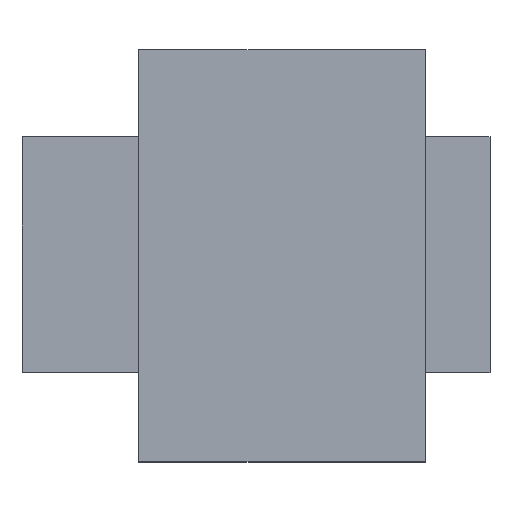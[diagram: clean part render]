
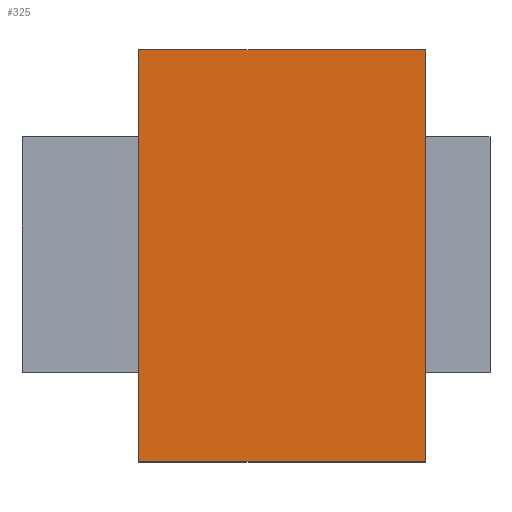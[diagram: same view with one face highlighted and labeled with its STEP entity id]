
A CAD part, top view. The second image highlights one B-rep face of the part: STEP entity #325.
In plain terms, the highlighted planar face has unit normal (0, 0, 1).
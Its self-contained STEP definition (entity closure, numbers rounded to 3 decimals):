
#24 = VERTEX_POINT('',#25);
#25 = CARTESIAN_POINT('',(0.,0.,12.7)
  );
#32 = PLANE('',#33);
#33 = AXIS2_PLACEMENT_3D('',#34,#35,#36);
#34 = CARTESIAN_POINT('',(0.,0.,0.));
#35 = DIRECTION('',(-1.,0.,0.));
#36 = DIRECTION('',(0.,0.,1.));
#44 = PLANE('',#45);
#45 = AXIS2_PLACEMENT_3D('',#46,#47,#48);
#46 = CARTESIAN_POINT('',(9.5,0.,6.35));
#47 = DIRECTION('',(0.,1.,0.));
#48 = DIRECTION('',(0.,0.,1.));
#197 = VERTEX_POINT('',#198);
#198 = CARTESIAN_POINT('',(0.,-27.3,12.7));
#212 = PLANE('',#213);
#213 = AXIS2_PLACEMENT_3D('',#214,#215,#216);
#214 = CARTESIAN_POINT('',(9.5,-27.3,6.35));
#215 = DIRECTION('',(0.,1.,0.));
#216 = DIRECTION('',(0.,0.,1.));
#224 = EDGE_CURVE('',#24,#197,#225,.T.);
#225 = SURFACE_CURVE('',#226,(#230,#237),.PCURVE_S1.);
#226 = LINE('',#227,#228);
#227 = CARTESIAN_POINT('',(0.,0.,12.7)
  );
#228 = VECTOR('',#229,1.);
#229 = DIRECTION('',(0.,-1.,0.));
#230 = PCURVE('',#32,#231);
#231 = DEFINITIONAL_REPRESENTATION('',(#232),#236);
#232 = LINE('',#233,#234);
#233 = CARTESIAN_POINT('',(12.7,0.));
#234 = VECTOR('',#235,1.);
#235 = DIRECTION('',(0.,-1.));
#236 = ( GEOMETRIC_REPRESENTATION_CONTEXT(2) 
PARAMETRIC_REPRESENTATION_CONTEXT() REPRESENTATION_CONTEXT('2D SPACE',''
  ) );
#237 = PCURVE('',#238,#243);
#238 = PLANE('',#239);
#239 = AXIS2_PLACEMENT_3D('',#240,#241,#242);
#240 = CARTESIAN_POINT('',(0.,0.,12.7)
  );
#241 = DIRECTION('',(0.,0.,1.));
#242 = DIRECTION('',(1.,0.,0.));
#243 = DEFINITIONAL_REPRESENTATION('',(#244),#248);
#244 = LINE('',#245,#246);
#245 = CARTESIAN_POINT('',(0.,0.));
#246 = VECTOR('',#247,1.);
#247 = DIRECTION('',(0.,-1.));
#248 = ( GEOMETRIC_REPRESENTATION_CONTEXT(2) 
PARAMETRIC_REPRESENTATION_CONTEXT() REPRESENTATION_CONTEXT('2D SPACE',''
  ) );
#254 = EDGE_CURVE('',#24,#255,#257,.T.);
#255 = VERTEX_POINT('',#256);
#256 = CARTESIAN_POINT('',(19.,0.,12.7));
#257 = SURFACE_CURVE('',#258,(#262,#269),.PCURVE_S1.);
#258 = LINE('',#259,#260);
#259 = CARTESIAN_POINT('',(0.,0.,12.7)
  );
#260 = VECTOR('',#261,1.);
#261 = DIRECTION('',(1.,0.,0.));
#262 = PCURVE('',#44,#263);
#263 = DEFINITIONAL_REPRESENTATION('',(#264),#268);
#264 = LINE('',#265,#266);
#265 = CARTESIAN_POINT('',(6.35,-9.5));
#266 = VECTOR('',#267,1.);
#267 = DIRECTION('',(0.,1.));
#268 = ( GEOMETRIC_REPRESENTATION_CONTEXT(2) 
PARAMETRIC_REPRESENTATION_CONTEXT() REPRESENTATION_CONTEXT('2D SPACE',''
  ) );
#269 = PCURVE('',#238,#270);
#270 = DEFINITIONAL_REPRESENTATION('',(#271),#275);
#271 = LINE('',#272,#273);
#272 = CARTESIAN_POINT('',(0.,0.));
#273 = VECTOR('',#274,1.);
#274 = DIRECTION('',(1.,0.));
#275 = ( GEOMETRIC_REPRESENTATION_CONTEXT(2) 
PARAMETRIC_REPRESENTATION_CONTEXT() REPRESENTATION_CONTEXT('2D SPACE',''
  ) );
#293 = PLANE('',#294);
#294 = AXIS2_PLACEMENT_3D('',#295,#296,#297);
#295 = CARTESIAN_POINT('',(19.,0.,12.7));
#296 = DIRECTION('',(1.,0.,0.));
#297 = DIRECTION('',(0.,0.,-1.));
#325 = ADVANCED_FACE('',(#326),#238,.T.);
#326 = FACE_BOUND('',#327,.T.);
#327 = EDGE_LOOP('',(#328,#329,#352,#373));
#328 = ORIENTED_EDGE('',*,*,#224,.T.);
#329 = ORIENTED_EDGE('',*,*,#330,.T.);
#330 = EDGE_CURVE('',#197,#331,#333,.T.);
#331 = VERTEX_POINT('',#332);
#332 = CARTESIAN_POINT('',(19.,-27.3,12.7));
#333 = SURFACE_CURVE('',#334,(#338,#345),.PCURVE_S1.);
#334 = LINE('',#335,#336);
#335 = CARTESIAN_POINT('',(0.,-27.3,12.7));
#336 = VECTOR('',#337,1.);
#337 = DIRECTION('',(1.,0.,0.));
#338 = PCURVE('',#238,#339);
#339 = DEFINITIONAL_REPRESENTATION('',(#340),#344);
#340 = LINE('',#341,#342);
#341 = CARTESIAN_POINT('',(0.,-27.3));
#342 = VECTOR('',#343,1.);
#343 = DIRECTION('',(1.,0.));
#344 = ( GEOMETRIC_REPRESENTATION_CONTEXT(2) 
PARAMETRIC_REPRESENTATION_CONTEXT() REPRESENTATION_CONTEXT('2D SPACE',''
  ) );
#345 = PCURVE('',#212,#346);
#346 = DEFINITIONAL_REPRESENTATION('',(#347),#351);
#347 = LINE('',#348,#349);
#348 = CARTESIAN_POINT('',(6.35,-9.5));
#349 = VECTOR('',#350,1.);
#350 = DIRECTION('',(0.,1.));
#351 = ( GEOMETRIC_REPRESENTATION_CONTEXT(2) 
PARAMETRIC_REPRESENTATION_CONTEXT() REPRESENTATION_CONTEXT('2D SPACE',''
  ) );
#352 = ORIENTED_EDGE('',*,*,#353,.F.);
#353 = EDGE_CURVE('',#255,#331,#354,.T.);
#354 = SURFACE_CURVE('',#355,(#359,#366),.PCURVE_S1.);
#355 = LINE('',#356,#357);
#356 = CARTESIAN_POINT('',(19.,0.,12.7));
#357 = VECTOR('',#358,1.);
#358 = DIRECTION('',(0.,-1.,0.));
#359 = PCURVE('',#238,#360);
#360 = DEFINITIONAL_REPRESENTATION('',(#361),#365);
#361 = LINE('',#362,#363);
#362 = CARTESIAN_POINT('',(19.,0.));
#363 = VECTOR('',#364,1.);
#364 = DIRECTION('',(0.,-1.));
#365 = ( GEOMETRIC_REPRESENTATION_CONTEXT(2) 
PARAMETRIC_REPRESENTATION_CONTEXT() REPRESENTATION_CONTEXT('2D SPACE',''
  ) );
#366 = PCURVE('',#293,#367);
#367 = DEFINITIONAL_REPRESENTATION('',(#368),#372);
#368 = LINE('',#369,#370);
#369 = CARTESIAN_POINT('',(0.,0.));
#370 = VECTOR('',#371,1.);
#371 = DIRECTION('',(0.,-1.));
#372 = ( GEOMETRIC_REPRESENTATION_CONTEXT(2) 
PARAMETRIC_REPRESENTATION_CONTEXT() REPRESENTATION_CONTEXT('2D SPACE',''
  ) );
#373 = ORIENTED_EDGE('',*,*,#254,.F.);
